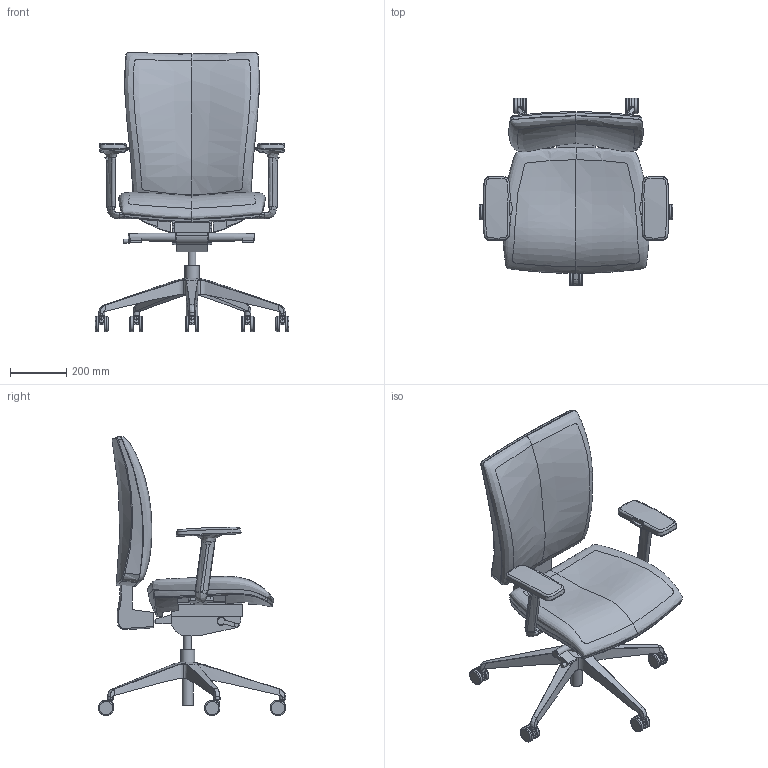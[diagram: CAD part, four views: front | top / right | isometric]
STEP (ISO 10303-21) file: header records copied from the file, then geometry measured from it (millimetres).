
FILE_DESCRIPTION(/* description */ (''),/* implementation_level */ '2;1');
FILE_NAME(/* name */ 'Lyra 235-SYS',/* time_stamp */ '2018-10-22T19:48:18+02:00',/* author */ (''),/* organization */ (''),/* preprocessor_version */ 'ST-DEVELOPER v16.5',/* originating_system */ '',/* authorisation */ '');
FILE_SCHEMA (('AUTOMOTIVE_DESIGN'));
Length unit declared in the file: millimetre
Products named in the file (1): Document
Bounding box: 690.82 x 668.7 x 997.3 mm (x, y, z)
Volume: 6593372.7 mm3; surface area: 2130626.1 mm2
Topology: 24 solids, 49 shells, 470 faces, 1071 edges, 654 vertices
Faces by surface type: bspline 335, plane 135
Entity records: 33187 total; most frequent: CARTESIAN_POINT 26643, ORIENTED_EDGE 2024, EDGE_CURVE 1053, VERTEX_POINT 648, B_SPLINE_CURVE_WITH_KNOTS 591, ADVANCED_FACE 470, FACE_OUTER_BOUND 470, EDGE_LOOP 470
